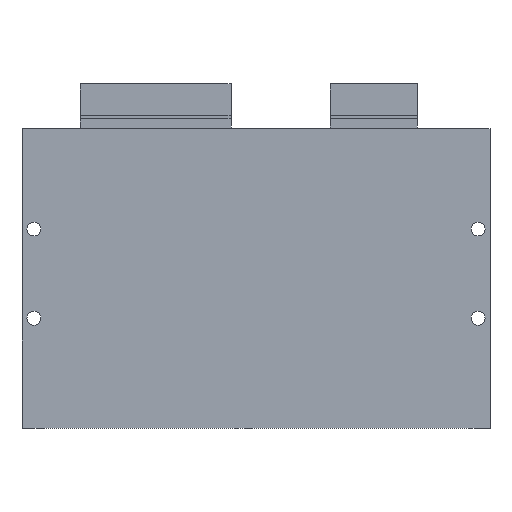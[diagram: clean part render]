
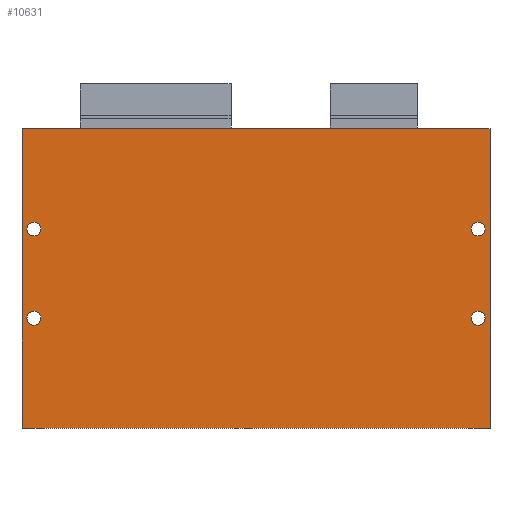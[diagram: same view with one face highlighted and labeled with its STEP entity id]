
A CAD part, front view. The second image highlights one B-rep face of the part: STEP entity #10631.
In plain terms, the highlighted planar face has unit normal (0, -1, 0).
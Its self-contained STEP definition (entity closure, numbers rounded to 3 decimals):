
#7 = FACE_BOUND ( 'NONE', #12138, .T. ) ;
#14 = DIRECTION ( 'NONE',  ( 0., 0., -1. ) ) ;
#35 = ORIENTED_EDGE ( 'NONE', *, *, #3352, .F. ) ;
#133 = VECTOR ( 'NONE', #12671, 1000. ) ;
#245 = EDGE_CURVE ( 'NONE', #3487, #10329, #2994, .T. ) ;
#269 = CARTESIAN_POINT ( 'NONE',  ( -48.373, 0., 38.896 ) ) ;
#395 = PLANE ( 'NONE',  #11265 ) ;
#554 = CIRCLE ( 'NONE', #8826, 1.75 ) ;
#982 = LINE ( 'NONE', #4929, #5078 ) ;
#983 = CIRCLE ( 'NONE', #4306, 1.75 ) ;
#1097 = VERTEX_POINT ( 'NONE', #8527 ) ;
#1151 = VERTEX_POINT ( 'NONE', #10578 ) ;
#1165 = ORIENTED_EDGE ( 'NONE', *, *, #10209, .T. ) ;
#1206 = CARTESIAN_POINT ( 'NONE',  ( -48.373, 0., -36.604 ) ) ;
#1293 = DIRECTION ( 'NONE',  ( 0., 1., 0. ) ) ;
#1406 = DIRECTION ( 'NONE',  ( 0., 0., 1. ) ) ;
#1530 = VERTEX_POINT ( 'NONE', #9355 ) ;
#1566 = EDGE_CURVE ( 'NONE', #1151, #1530, #3384, .T. ) ;
#1589 = VERTEX_POINT ( 'NONE', #2688 ) ;
#2098 = CARTESIAN_POINT ( 'NONE',  ( -48.373, 0., -36.604 ) ) ;
#2179 = AXIS2_PLACEMENT_3D ( 'NONE', #12652, #9927, #5843 ) ;
#2202 = DIRECTION ( 'NONE',  ( 0., 1., 0. ) ) ;
#2346 = CARTESIAN_POINT ( 'NONE',  ( -45.373, 0., -8.904 ) ) ;
#2381 = VERTEX_POINT ( 'NONE', #11340 ) ;
#2462 = DIRECTION ( 'NONE',  ( 0., 1., 0. ) ) ;
#2688 = CARTESIAN_POINT ( 'NONE',  ( -45.373, 0., -10.654 ) ) ;
#2859 = EDGE_CURVE ( 'NONE', #6707, #11295, #12308, .T. ) ;
#2994 = LINE ( 'NONE', #11997, #10882 ) ;
#3111 = DIRECTION ( 'NONE',  ( 0., 0., 1. ) ) ;
#3209 = AXIS2_PLACEMENT_3D ( 'NONE', #2346, #12122, #6173 ) ;
#3239 = CARTESIAN_POINT ( 'NONE',  ( 0., 0., 0. ) ) ;
#3352 = EDGE_CURVE ( 'NONE', #10329, #7352, #982, .T. ) ;
#3369 = CARTESIAN_POINT ( 'NONE',  ( -48.373, 0., -36.604 ) ) ;
#3384 = CIRCLE ( 'NONE', #5246, 1.75 ) ;
#3487 = VERTEX_POINT ( 'NONE', #269 ) ;
#3607 = ORIENTED_EDGE ( 'NONE', *, *, #245, .F. ) ;
#3817 = FACE_BOUND ( 'NONE', #11386, .T. ) ;
#3952 = FACE_BOUND ( 'NONE', #11834, .T. ) ;
#4113 = DIRECTION ( 'NONE',  ( -1., 0., 0. ) ) ;
#4255 = DIRECTION ( 'NONE',  ( 0., 1., 0. ) ) ;
#4306 = AXIS2_PLACEMENT_3D ( 'NONE', #6077, #2202, #7959 ) ;
#4506 = CARTESIAN_POINT ( 'NONE',  ( 66.627, 0., 13.596 ) ) ;
#4634 = ORIENTED_EDGE ( 'NONE', *, *, #7432, .T. ) ;
#4929 = CARTESIAN_POINT ( 'NONE',  ( 69.627, 0., -36.604 ) ) ;
#5078 = VECTOR ( 'NONE', #14, 1000. ) ;
#5241 = FACE_OUTER_BOUND ( 'NONE', #8447, .T. ) ;
#5246 = AXIS2_PLACEMENT_3D ( 'NONE', #4506, #12525, #10385 ) ;
#5455 = DIRECTION ( 'NONE',  ( 0., 0., 1. ) ) ;
#5535 = EDGE_CURVE ( 'NONE', #7352, #9733, #6239, .T. ) ;
#5843 = DIRECTION ( 'NONE',  ( 0., 0., 1. ) ) ;
#5962 = DIRECTION ( 'NONE',  ( 0., 1., 0. ) ) ;
#6028 = EDGE_CURVE ( 'NONE', #9733, #3487, #12437, .T. ) ;
#6077 = CARTESIAN_POINT ( 'NONE',  ( -45.373, 0., 13.596 ) ) ;
#6173 = DIRECTION ( 'NONE',  ( 0., 0., 1. ) ) ;
#6239 = LINE ( 'NONE', #2098, #11686 ) ;
#6250 = ORIENTED_EDGE ( 'NONE', *, *, #11758, .T. ) ;
#6276 = EDGE_CURVE ( 'NONE', #11295, #6707, #12530, .T. ) ;
#6366 = CARTESIAN_POINT ( 'NONE',  ( 69.627, 0., 38.896 ) ) ;
#6406 = ORIENTED_EDGE ( 'NONE', *, *, #5535, .F. ) ;
#6699 = ORIENTED_EDGE ( 'NONE', *, *, #9537, .T. ) ;
#6707 = VERTEX_POINT ( 'NONE', #7218 ) ;
#6720 = EDGE_CURVE ( 'NONE', #1530, #1151, #554, .T. ) ;
#7151 = ORIENTED_EDGE ( 'NONE', *, *, #6720, .T. ) ;
#7218 = CARTESIAN_POINT ( 'NONE',  ( 66.627, 0., -7.154 ) ) ;
#7325 = CIRCLE ( 'NONE', #8985, 1.75 ) ;
#7352 = VERTEX_POINT ( 'NONE', #7645 ) ;
#7432 = EDGE_CURVE ( 'NONE', #11647, #1097, #983, .T. ) ;
#7645 = CARTESIAN_POINT ( 'NONE',  ( 69.627, 0., -36.604 ) ) ;
#7655 = DIRECTION ( 'NONE',  ( 0., 1., 0. ) ) ;
#7835 = DIRECTION ( 'NONE',  ( 0., 0., 1. ) ) ;
#7959 = DIRECTION ( 'NONE',  ( 0., 0., 1. ) ) ;
#8108 = DIRECTION ( 'NONE',  ( 1., 0., 0. ) ) ;
#8127 = EDGE_LOOP ( 'NONE', ( #11264, #12148 ) ) ;
#8447 = EDGE_LOOP ( 'NONE', ( #12416, #6406, #35, #3607 ) ) ;
#8527 = CARTESIAN_POINT ( 'NONE',  ( -45.373, 0., 11.846 ) ) ;
#8638 = CARTESIAN_POINT ( 'NONE',  ( 66.627, 0., 13.596 ) ) ;
#8826 = AXIS2_PLACEMENT_3D ( 'NONE', #8638, #7655, #5455 ) ;
#8985 = AXIS2_PLACEMENT_3D ( 'NONE', #11336, #2462, #12603 ) ;
#9355 = CARTESIAN_POINT ( 'NONE',  ( 66.627, 0., 11.846 ) ) ;
#9537 = EDGE_CURVE ( 'NONE', #1097, #11647, #7325, .T. ) ;
#9626 = CIRCLE ( 'NONE', #3209, 1.75 ) ;
#9733 = VERTEX_POINT ( 'NONE', #1206 ) ;
#9847 = CARTESIAN_POINT ( 'NONE',  ( -45.373, 0., -8.904 ) ) ;
#9927 = DIRECTION ( 'NONE',  ( 0., 1., 0. ) ) ;
#9973 = ORIENTED_EDGE ( 'NONE', *, *, #1566, .T. ) ;
#10209 = EDGE_CURVE ( 'NONE', #1589, #2381, #9626, .T. ) ;
#10279 = CARTESIAN_POINT ( 'NONE',  ( 66.627, 0., -10.654 ) ) ;
#10329 = VERTEX_POINT ( 'NONE', #6366 ) ;
#10385 = DIRECTION ( 'NONE',  ( 0., 0., 1. ) ) ;
#10578 = CARTESIAN_POINT ( 'NONE',  ( 66.627, 0., 15.346 ) ) ;
#10631 = ADVANCED_FACE ( 'NONE', ( #7, #12693, #3817, #3952, #5241 ), #395, .F. ) ;
#10652 = AXIS2_PLACEMENT_3D ( 'NONE', #12273, #4255, #1406 ) ;
#10882 = VECTOR ( 'NONE', #8108, 1000. ) ;
#11264 = ORIENTED_EDGE ( 'NONE', *, *, #2859, .T. ) ;
#11265 = AXIS2_PLACEMENT_3D ( 'NONE', #3239, #1293, #3111 ) ;
#11295 = VERTEX_POINT ( 'NONE', #10279 ) ;
#11336 = CARTESIAN_POINT ( 'NONE',  ( -45.373, 0., 13.596 ) ) ;
#11340 = CARTESIAN_POINT ( 'NONE',  ( -45.373, 0., -7.154 ) ) ;
#11386 = EDGE_LOOP ( 'NONE', ( #9973, #7151 ) ) ;
#11647 = VERTEX_POINT ( 'NONE', #12444 ) ;
#11686 = VECTOR ( 'NONE', #4113, 1000. ) ;
#11758 = EDGE_CURVE ( 'NONE', #2381, #1589, #11990, .T. ) ;
#11778 = AXIS2_PLACEMENT_3D ( 'NONE', #9847, #5962, #7835 ) ;
#11834 = EDGE_LOOP ( 'NONE', ( #6250, #1165 ) ) ;
#11990 = CIRCLE ( 'NONE', #11778, 1.75 ) ;
#11997 = CARTESIAN_POINT ( 'NONE',  ( -48.373, 0., 38.896 ) ) ;
#12122 = DIRECTION ( 'NONE',  ( 0., 1., 0. ) ) ;
#12138 = EDGE_LOOP ( 'NONE', ( #4634, #6699 ) ) ;
#12148 = ORIENTED_EDGE ( 'NONE', *, *, #6276, .T. ) ;
#12273 = CARTESIAN_POINT ( 'NONE',  ( 66.627, 0., -8.904 ) ) ;
#12308 = CIRCLE ( 'NONE', #2179, 1.75 ) ;
#12416 = ORIENTED_EDGE ( 'NONE', *, *, #6028, .F. ) ;
#12437 = LINE ( 'NONE', #3369, #133 ) ;
#12444 = CARTESIAN_POINT ( 'NONE',  ( -45.373, 0., 15.346 ) ) ;
#12525 = DIRECTION ( 'NONE',  ( 0., 1., 0. ) ) ;
#12530 = CIRCLE ( 'NONE', #10652, 1.75 ) ;
#12603 = DIRECTION ( 'NONE',  ( 0., 0., 1. ) ) ;
#12652 = CARTESIAN_POINT ( 'NONE',  ( 66.627, 0., -8.904 ) ) ;
#12671 = DIRECTION ( 'NONE',  ( 0., 0., 1. ) ) ;
#12693 = FACE_BOUND ( 'NONE', #8127, .T. ) ;
